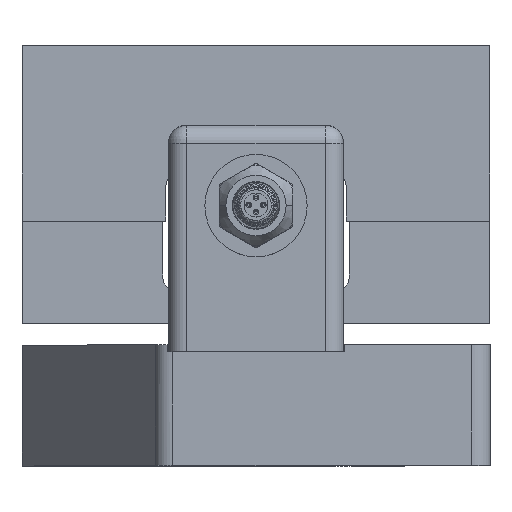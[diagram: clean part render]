
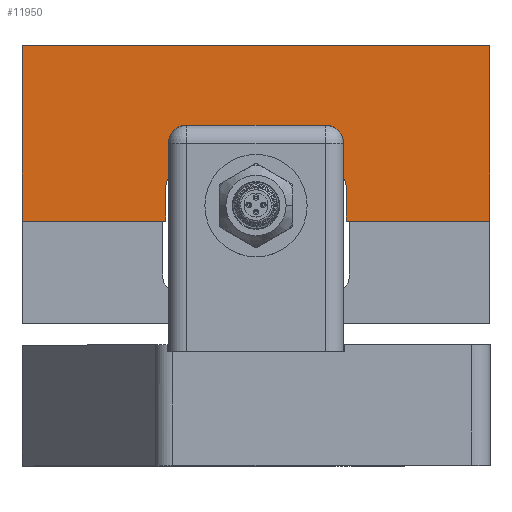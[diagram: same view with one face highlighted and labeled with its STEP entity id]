
A CAD part, top view. The second image highlights one B-rep face of the part: STEP entity #11950.
In plain terms, the highlighted planar face has unit normal (0, 0, 1) as drawn and (-1, 0, 0) by its records, which use the part's own axes.
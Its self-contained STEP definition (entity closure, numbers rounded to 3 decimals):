
#13 = LINE ( 'NONE', #3912, #2592 ) ;
#78 = CARTESIAN_POINT ( 'NONE',  ( 0., 0., -19.75 ) ) ;
#86 = AXIS2_PLACEMENT_3D ( 'NONE', #5334, #11989, #6543 ) ;
#683 = CARTESIAN_POINT ( 'NONE',  ( 0., -14., -64. ) ) ;
#733 = VECTOR ( 'NONE', #10633, 1000. ) ;
#1050 = ORIENTED_EDGE ( 'NONE', *, *, #16682, .F. ) ;
#1094 = EDGE_CURVE ( 'NONE', #16867, #2890, #13425, .T. ) ;
#1264 = VECTOR ( 'NONE', #5975, 1000. ) ;
#1385 = LINE ( 'NONE', #1553, #5344 ) ;
#1553 = CARTESIAN_POINT ( 'NONE',  ( 0., -14., 64. ) ) ;
#1716 = EDGE_CURVE ( 'NONE', #13204, #5832, #4080, .T. ) ;
#1985 = LINE ( 'NONE', #14200, #4464 ) ;
#2253 = DIRECTION ( 'NONE',  ( 0., 0., -1. ) ) ;
#2385 = ORIENTED_EDGE ( 'NONE', *, *, #6952, .F. ) ;
#2592 = VECTOR ( 'NONE', #10638, 1000. ) ;
#2724 = ORIENTED_EDGE ( 'NONE', *, *, #4578, .T. ) ;
#2890 = VERTEX_POINT ( 'NONE', #78 ) ;
#3525 = DIRECTION ( 'NONE',  ( 1., 0., 0. ) ) ;
#3582 = CARTESIAN_POINT ( 'NONE',  ( 0., 34., 64. ) ) ;
#3648 = DIRECTION ( 'NONE',  ( 0., 1., 0. ) ) ;
#3763 = EDGE_CURVE ( 'NONE', #16804, #4789, #1385, .T. ) ;
#3912 = CARTESIAN_POINT ( 'NONE',  ( 0., 34., 64. ) ) ;
#4080 = LINE ( 'NONE', #9518, #733 ) ;
#4254 = DIRECTION ( 'NONE',  ( 0., -1., 0. ) ) ;
#4335 = ORIENTED_EDGE ( 'NONE', *, *, #10372, .T. ) ;
#4464 = VECTOR ( 'NONE', #3648, 1000. ) ;
#4578 = EDGE_CURVE ( 'NONE', #2890, #14207, #12463, .T. ) ;
#4715 = ORIENTED_EDGE ( 'NONE', *, *, #3763, .F. ) ;
#4789 = VERTEX_POINT ( 'NONE', #13495 ) ;
#5334 = CARTESIAN_POINT ( 'NONE',  ( 0., 0., 0. ) ) ;
#5344 = VECTOR ( 'NONE', #4254, 1000. ) ;
#5355 = EDGE_CURVE ( 'NONE', #14207, #13204, #14732, .T. ) ;
#5520 = ORIENTED_EDGE ( 'NONE', *, *, #1094, .T. ) ;
#5551 = CARTESIAN_POINT ( 'NONE',  ( 0., -5., -24.75 ) ) ;
#5832 = VERTEX_POINT ( 'NONE', #11956 ) ;
#5964 = AXIS2_PLACEMENT_3D ( 'NONE', #14059, #11450, #12916 ) ;
#5975 = DIRECTION ( 'NONE',  ( 0., 0., 1. ) ) ;
#6496 = LINE ( 'NONE', #12993, #17088 ) ;
#6543 = DIRECTION ( 'NONE',  ( 0., 0., 1. ) ) ;
#6720 = LINE ( 'NONE', #12000, #15599 ) ;
#6810 = DIRECTION ( 'NONE',  ( 0., 0., -1. ) ) ;
#6952 = EDGE_CURVE ( 'NONE', #11449, #16804, #13, .T. ) ;
#7093 = VERTEX_POINT ( 'NONE', #9610 ) ;
#7183 = CARTESIAN_POINT ( 'NONE',  ( 0., 0., 24.75 ) ) ;
#7222 = EDGE_CURVE ( 'NONE', #10798, #11449, #8481, .T. ) ;
#7247 = AXIS2_PLACEMENT_3D ( 'NONE', #15301, #3525, #8794 ) ;
#8481 = LINE ( 'NONE', #11414, #10592 ) ;
#8517 = ORIENTED_EDGE ( 'NONE', *, *, #7222, .F. ) ;
#8794 = DIRECTION ( 'NONE',  ( 0., 0., 1. ) ) ;
#9518 = CARTESIAN_POINT ( 'NONE',  ( 0., -14., 24.75 ) ) ;
#9610 = CARTESIAN_POINT ( 'NONE',  ( 0., -14., -24.75 ) ) ;
#10372 = EDGE_CURVE ( 'NONE', #7093, #16867, #1985, .T. ) ;
#10592 = VECTOR ( 'NONE', #15414, 1000. ) ;
#10633 = DIRECTION ( 'NONE',  ( 0., -1., 0. ) ) ;
#10638 = DIRECTION ( 'NONE',  ( 0., 0., 1. ) ) ;
#10798 = VERTEX_POINT ( 'NONE', #683 ) ;
#11414 = CARTESIAN_POINT ( 'NONE',  ( 0., -14., -64. ) ) ;
#11449 = VERTEX_POINT ( 'NONE', #13521 ) ;
#11450 = DIRECTION ( 'NONE',  ( 1., 0., 0. ) ) ;
#11916 = EDGE_LOOP ( 'NONE', ( #4335, #5520, #2724, #16079, #15757, #12171, #4715, #2385, #8517, #1050 ) ) ;
#11950 = ADVANCED_FACE ( 'NONE', ( #15998 ), #13035, .T. ) ;
#11956 = CARTESIAN_POINT ( 'NONE',  ( 0., -14., 24.75 ) ) ;
#11989 = DIRECTION ( 'NONE',  ( -1., 0., 0. ) ) ;
#12000 = CARTESIAN_POINT ( 'NONE',  ( 0., -14., 64. ) ) ;
#12171 = ORIENTED_EDGE ( 'NONE', *, *, #15334, .F. ) ;
#12436 = CARTESIAN_POINT ( 'NONE',  ( 0., 0., 19.75 ) ) ;
#12463 = LINE ( 'NONE', #7183, #1264 ) ;
#12509 = CARTESIAN_POINT ( 'NONE',  ( 0., -5., 24.75 ) ) ;
#12916 = DIRECTION ( 'NONE',  ( 0., 0., 1. ) ) ;
#12993 = CARTESIAN_POINT ( 'NONE',  ( 0., -14., 64. ) ) ;
#13035 = PLANE ( 'NONE',  #86 ) ;
#13204 = VERTEX_POINT ( 'NONE', #12509 ) ;
#13425 = CIRCLE ( 'NONE', #5964, 5. ) ;
#13495 = CARTESIAN_POINT ( 'NONE',  ( 0., -14., 64. ) ) ;
#13521 = CARTESIAN_POINT ( 'NONE',  ( 0., 34., -64. ) ) ;
#14059 = CARTESIAN_POINT ( 'NONE',  ( 0., -5., -19.75 ) ) ;
#14200 = CARTESIAN_POINT ( 'NONE',  ( 0., -14., -24.75 ) ) ;
#14207 = VERTEX_POINT ( 'NONE', #12436 ) ;
#14732 = CIRCLE ( 'NONE', #7247, 5. ) ;
#15301 = CARTESIAN_POINT ( 'NONE',  ( 0., -5., 19.75 ) ) ;
#15334 = EDGE_CURVE ( 'NONE', #4789, #5832, #6720, .T. ) ;
#15414 = DIRECTION ( 'NONE',  ( 0., 1., 0. ) ) ;
#15599 = VECTOR ( 'NONE', #6810, 1000. ) ;
#15757 = ORIENTED_EDGE ( 'NONE', *, *, #1716, .T. ) ;
#15998 = FACE_OUTER_BOUND ( 'NONE', #11916, .T. ) ;
#16079 = ORIENTED_EDGE ( 'NONE', *, *, #5355, .T. ) ;
#16682 = EDGE_CURVE ( 'NONE', #7093, #10798, #6496, .T. ) ;
#16804 = VERTEX_POINT ( 'NONE', #3582 ) ;
#16867 = VERTEX_POINT ( 'NONE', #5551 ) ;
#17088 = VECTOR ( 'NONE', #2253, 1000. ) ;
